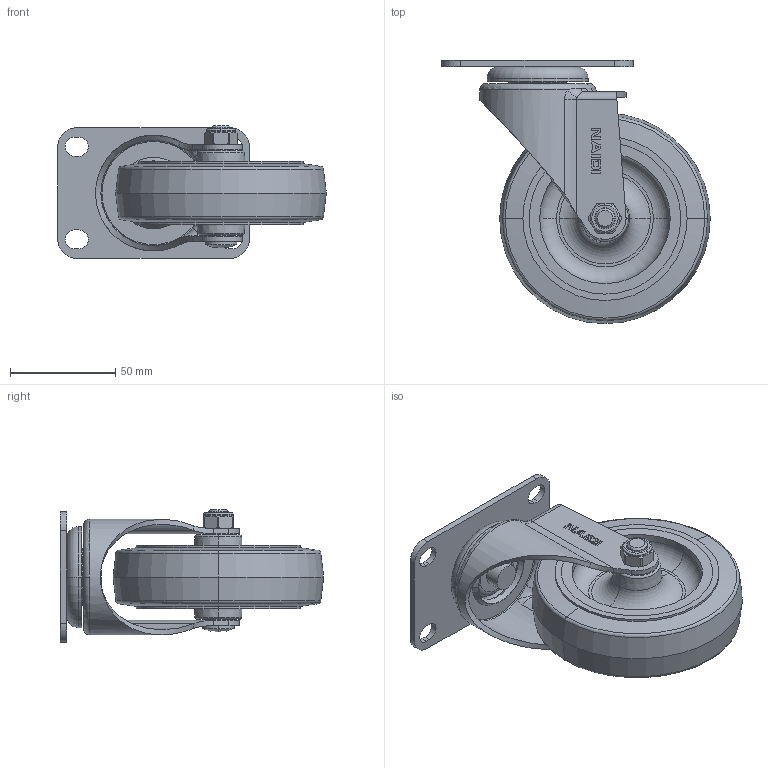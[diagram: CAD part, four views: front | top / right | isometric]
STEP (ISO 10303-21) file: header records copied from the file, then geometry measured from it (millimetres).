
FILE_DESCRIPTION((''),'2;1');
FILE_NAME('C52114_ASM_1_ASM','2024-05-23T',('Lenovo'),(''),'PRO/ENGINEER BY PARAMETRIC TECHNOLOGY CORPORATION, 2010280','PRO/ENGINEER BY PARAMETRIC TECHNOLOGY CORPORATION, 2010280','');
FILE_SCHEMA(('CONFIG_CONTROL_DESIGN'));
Length unit declared in the file: millimetre
Products named in the file (9): PRT0001; PRT0002; C5214-311_3; PRT0003; C524-964_1; PRT0004; PRT0005; PRT0006; C52114_ASM_1_ASM
Assembly tree (8 placements, depth 2):
  C52114_ASM_1_ASM
    PRT0001
    PRT0002
    C5214-311_3
    PRT0003
    C524-964_1
    PRT0004
    PRT0005
    PRT0006
Bounding box: 127.5 x 125 x 63 mm (x, y, z)
Volume: 156200.7 mm3; surface area: 92905.9 mm2
Topology: 8 solids, 9 shells, 310 faces, 762 edges, 489 vertices
Faces by surface type: plane 118, cylinder 87, cone 48, torus 44, bspline 11, sphere 2
Entity records: 10933 total; most frequent: CARTESIAN_POINT 3171, DIRECTION 1696, ORIENTED_EDGE 1520, EDGE_CURVE 760, AXIS2_PLACEMENT_3D 680, VERTEX_POINT 489, CIRCLE 362, EDGE_LOOP 359
